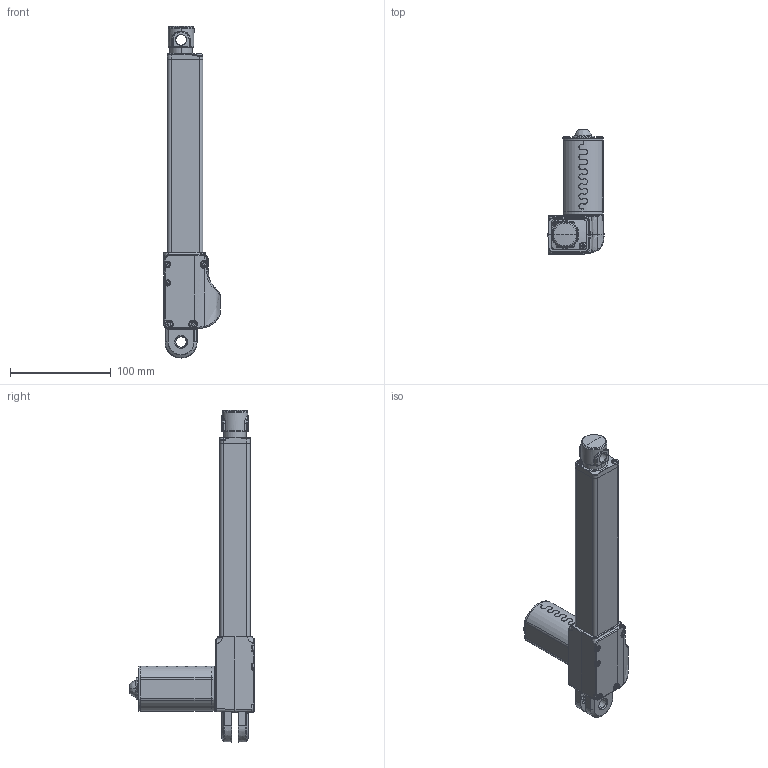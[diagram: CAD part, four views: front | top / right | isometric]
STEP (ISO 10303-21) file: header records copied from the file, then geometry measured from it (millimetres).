
FILE_DESCRIPTION (( 'STEP AP203' ), '1' );
FILE_NAME ('3D_TA43.STEP', '2019-05-02T09:44:16', ( '' ), ( '' ), 'SwSTEP 2.0', 'SolidWorks 2015', '' );
FILE_SCHEMA (( 'CONFIG_CONTROL_DESIGN' ));
Length unit declared in the file: millimetre
Products named in the file (1): 3D_TA43
Bounding box: 55.71 x 123.8 x 329.74 mm (x, y, z)
Surface area: 83723.8 mm2 (no closed solid volume)
Topology: 0 solids, 74 shells, 1086 faces, 3311 edges, 2272 vertices
Faces by surface type: plane 378, cylinder 373, bspline 250, torus 39, cone 38, sphere 8
Entity records: 48375 total; most frequent: CARTESIAN_POINT 21502, ORIENTED_EDGE 5646, DIRECTION 4831, EDGE_CURVE 3291, VERTEX_POINT 2272, AXIS2_PLACEMENT_3D 1647, LINE 1537, VECTOR 1537
